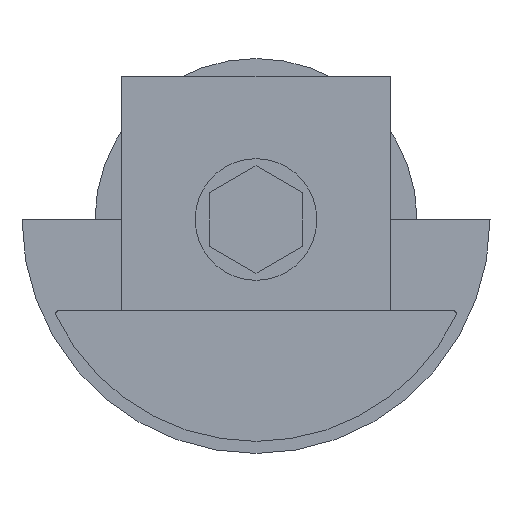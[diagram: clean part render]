
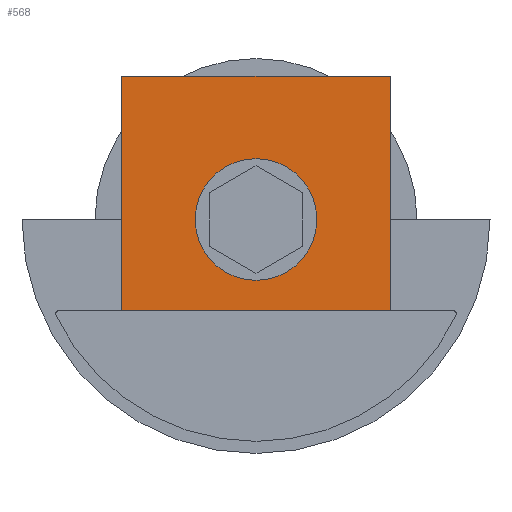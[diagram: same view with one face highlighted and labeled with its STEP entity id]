
A CAD part, left-side view. The second image highlights one B-rep face of the part: STEP entity #568.
In plain terms, the highlighted planar face has unit normal (-1, 0, 0).
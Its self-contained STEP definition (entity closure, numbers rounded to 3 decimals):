
#15 = VERTEX_POINT ( 'NONE', #150 ) ;
#17 = CARTESIAN_POINT ( 'NONE',  ( -117.5, -13.95, 52.7 ) ) ;
#50 = VERTEX_POINT ( 'NONE', #1099 ) ;
#108 = DIRECTION ( 'NONE',  ( 0., 0., -1. ) ) ;
#114 = LINE ( 'NONE', #123, #291 ) ;
#123 = CARTESIAN_POINT ( 'NONE',  ( -117.5, -60.696, 20. ) ) ;
#136 = CARTESIAN_POINT ( 'NONE',  ( -117.5, -51.45, 52.7 ) ) ;
#137 = CIRCLE ( 'NONE', #1253, 4. ) ;
#150 = CARTESIAN_POINT ( 'NONE',  ( -117.5, -51.45, 52.7 ) ) ;
#195 = AXIS2_PLACEMENT_3D ( 'NONE', #1087, #593, #1349 ) ;
#252 = DIRECTION ( 'NONE',  ( 0., 1., 0. ) ) ;
#275 = ORIENTED_EDGE ( 'NONE', *, *, #279, .T. ) ;
#279 = EDGE_CURVE ( 'NONE', #15, #450, #858, .T. ) ;
#291 = VECTOR ( 'NONE', #252, 1000. ) ;
#335 = EDGE_CURVE ( 'NONE', #50, #1367, #114, .T. ) ;
#369 = CARTESIAN_POINT ( 'NONE',  ( -117.5, -13.95, 20. ) ) ;
#450 = VERTEX_POINT ( 'NONE', #17 ) ;
#451 = CARTESIAN_POINT ( 'NONE',  ( -117.5, -32.7, 28.7 ) ) ;
#458 = LINE ( 'NONE', #136, #1727 ) ;
#495 = FACE_BOUND ( 'NONE', #1836, .T. ) ;
#547 = VECTOR ( 'NONE', #1641, 1000. ) ;
#550 = AXIS2_PLACEMENT_3D ( 'NONE', #1701, #1875, #1713 ) ;
#568 = ADVANCED_FACE ( 'NONE', ( #495, #1267 ), #1135, .F. ) ;
#593 = DIRECTION ( 'NONE',  ( -1., 0., 0. ) ) ;
#613 = EDGE_LOOP ( 'NONE', ( #275, #1646, #1103, #918 ) ) ;
#858 = LINE ( 'NONE', #1616, #547 ) ;
#877 = EDGE_CURVE ( 'NONE', #1844, #1112, #137, .T. ) ;
#897 = DIRECTION ( 'NONE',  ( 0., 0., -1. ) ) ;
#918 = ORIENTED_EDGE ( 'NONE', *, *, #1833, .F. ) ;
#1031 = CARTESIAN_POINT ( 'NONE',  ( -117.5, -32.7, 36.7 ) ) ;
#1057 = CIRCLE ( 'NONE', #195, 4. ) ;
#1062 = ORIENTED_EDGE ( 'NONE', *, *, #877, .F. ) ;
#1068 = EDGE_CURVE ( 'NONE', #1112, #1844, #1057, .T. ) ;
#1087 = CARTESIAN_POINT ( 'NONE',  ( -117.5, -32.7, 32.7 ) ) ;
#1099 = CARTESIAN_POINT ( 'NONE',  ( -117.5, -51.45, 20. ) ) ;
#1103 = ORIENTED_EDGE ( 'NONE', *, *, #335, .F. ) ;
#1112 = VERTEX_POINT ( 'NONE', #451 ) ;
#1135 = PLANE ( 'NONE',  #550 ) ;
#1188 = EDGE_CURVE ( 'NONE', #1367, #450, #1273, .T. ) ;
#1253 = AXIS2_PLACEMENT_3D ( 'NONE', #1334, #1456, #108 ) ;
#1267 = FACE_OUTER_BOUND ( 'NONE', #613, .T. ) ;
#1273 = LINE ( 'NONE', #369, #1308 ) ;
#1308 = VECTOR ( 'NONE', #1404, 1000. ) ;
#1334 = CARTESIAN_POINT ( 'NONE',  ( -117.5, -32.7, 32.7 ) ) ;
#1349 = DIRECTION ( 'NONE',  ( 0., 0., -1. ) ) ;
#1365 = ORIENTED_EDGE ( 'NONE', *, *, #1068, .F. ) ;
#1367 = VERTEX_POINT ( 'NONE', #1524 ) ;
#1404 = DIRECTION ( 'NONE',  ( 0., 0., 1. ) ) ;
#1456 = DIRECTION ( 'NONE',  ( -1., 0., 0. ) ) ;
#1524 = CARTESIAN_POINT ( 'NONE',  ( -117.5, -13.95, 20. ) ) ;
#1616 = CARTESIAN_POINT ( 'NONE',  ( -117.5, -60.696, 52.7 ) ) ;
#1641 = DIRECTION ( 'NONE',  ( 0., 1., 0. ) ) ;
#1646 = ORIENTED_EDGE ( 'NONE', *, *, #1188, .F. ) ;
#1701 = CARTESIAN_POINT ( 'NONE',  ( -117.5, -60.696, 52.7 ) ) ;
#1713 = DIRECTION ( 'NONE',  ( 0., -1., 0. ) ) ;
#1727 = VECTOR ( 'NONE', #897, 1000. ) ;
#1833 = EDGE_CURVE ( 'NONE', #15, #50, #458, .T. ) ;
#1836 = EDGE_LOOP ( 'NONE', ( #1365, #1062 ) ) ;
#1844 = VERTEX_POINT ( 'NONE', #1031 ) ;
#1875 = DIRECTION ( 'NONE',  ( 1., 0., 0. ) ) ;
